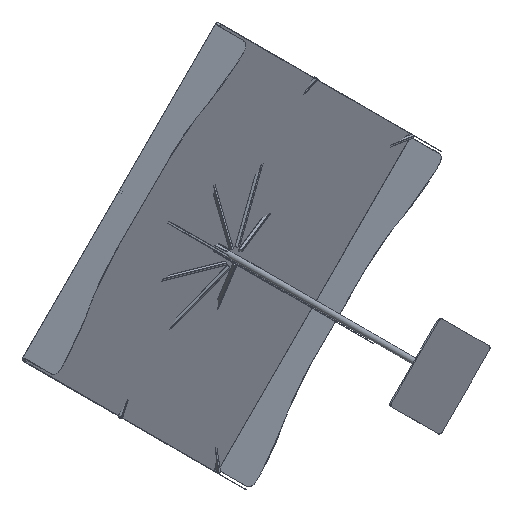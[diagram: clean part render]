
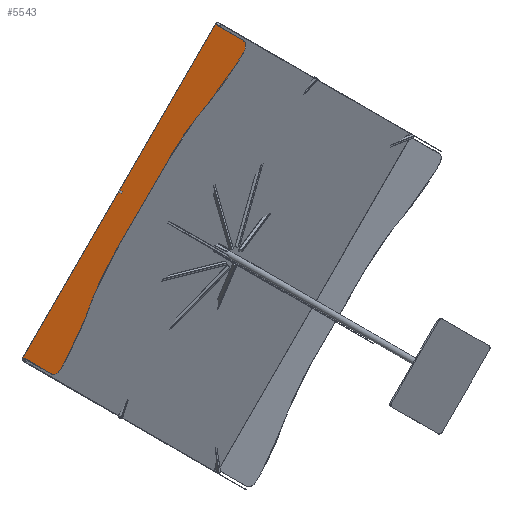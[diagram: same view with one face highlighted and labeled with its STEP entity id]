
A CAD part, isometric view. The second image highlights one B-rep face of the part: STEP entity #5543.
In plain terms, the highlighted planar face has unit normal (-0.707, 0, 0.707).
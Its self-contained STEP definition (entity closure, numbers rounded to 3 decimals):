
#551=FACE_OUTER_BOUND('',#860,.T.);
#860=EDGE_LOOP('',(#4586,#4587,#4588,#4589,#4590,#4591,#4592,#4593,#4594,
#4595,#4596,#4597,#4598,#4599,#4600,#4601,#4602,#4603,#4604,#4605,#4606,
#4607,#4608,#4609));
#1288=LINE('',#9471,#1740);
#1294=LINE('',#9734,#1746);
#1296=LINE('',#9738,#1748);
#1298=LINE('',#9742,#1750);
#1301=LINE('',#9750,#1753);
#1303=LINE('',#9754,#1755);
#1305=LINE('',#9758,#1757);
#1308=LINE('',#9766,#1760);
#1311=LINE('',#9774,#1763);
#1313=LINE('',#9778,#1765);
#1315=LINE('',#9782,#1767);
#1317=LINE('',#9786,#1769);
#1320=LINE('',#9794,#1772);
#1322=LINE('',#9798,#1774);
#1324=LINE('',#9804,#1776);
#1326=LINE('',#9807,#1778);
#1740=VECTOR('',#7307,10.);
#1746=VECTOR('',#7325,10.);
#1748=VECTOR('',#7329,10.);
#1750=VECTOR('',#7333,10.);
#1753=VECTOR('',#7342,10.);
#1755=VECTOR('',#7346,10.);
#1757=VECTOR('',#7350,10.);
#1760=VECTOR('',#7359,10.);
#1763=VECTOR('',#7368,10.);
#1765=VECTOR('',#7372,10.);
#1767=VECTOR('',#7376,10.);
#1769=VECTOR('',#7380,10.);
#1772=VECTOR('',#7389,10.);
#1774=VECTOR('',#7393,10.);
#1776=VECTOR('',#7401,10.);
#1778=VECTOR('',#7405,10.);
#1960=CIRCLE('',#6029,50.);
#1961=CIRCLE('',#6032,50.);
#1962=CIRCLE('',#6035,107.394);
#1963=CIRCLE('',#6040,2175.407);
#1964=CIRCLE('',#6045,2163.037);
#1965=CIRCLE('',#6048,2163.037);
#1966=CIRCLE('',#6054,2166.394);
#1967=CIRCLE('',#6058,108.029);
#2403=VERTEX_POINT('',#9461);
#2404=VERTEX_POINT('',#9463);
#2406=VERTEX_POINT('',#9469);
#2428=VERTEX_POINT('',#9707);
#2429=VERTEX_POINT('',#9708);
#2432=VERTEX_POINT('',#9729);
#2433=VERTEX_POINT('',#9733);
#2434=VERTEX_POINT('',#9737);
#2435=VERTEX_POINT('',#9741);
#2436=VERTEX_POINT('',#9745);
#2437=VERTEX_POINT('',#9749);
#2438=VERTEX_POINT('',#9753);
#2439=VERTEX_POINT('',#9757);
#2440=VERTEX_POINT('',#9761);
#2441=VERTEX_POINT('',#9765);
#2442=VERTEX_POINT('',#9769);
#2443=VERTEX_POINT('',#9773);
#2444=VERTEX_POINT('',#9777);
#2445=VERTEX_POINT('',#9781);
#2446=VERTEX_POINT('',#9785);
#2447=VERTEX_POINT('',#9789);
#2448=VERTEX_POINT('',#9793);
#2449=VERTEX_POINT('',#9797);
#2450=VERTEX_POINT('',#9803);
#3108=EDGE_CURVE('',#2403,#2404,#1960,.T.);
#3112=EDGE_CURVE('',#2406,#2403,#1288,.T.);
#3135=EDGE_CURVE('',#2428,#2429,#1961,.T.);
#3141=EDGE_CURVE('',#2432,#2404,#1962,.T.);
#3143=EDGE_CURVE('',#2433,#2432,#1294,.T.);
#3145=EDGE_CURVE('',#2434,#2433,#1296,.T.);
#3147=EDGE_CURVE('',#2435,#2434,#1298,.T.);
#3149=EDGE_CURVE('',#2436,#2435,#1963,.T.);
#3151=EDGE_CURVE('',#2437,#2436,#1301,.T.);
#3153=EDGE_CURVE('',#2438,#2437,#1303,.T.);
#3155=EDGE_CURVE('',#2439,#2438,#1305,.T.);
#3157=EDGE_CURVE('',#2440,#2439,#1964,.T.);
#3159=EDGE_CURVE('',#2441,#2440,#1308,.T.);
#3161=EDGE_CURVE('',#2442,#2441,#1965,.T.);
#3163=EDGE_CURVE('',#2443,#2442,#1311,.T.);
#3165=EDGE_CURVE('',#2444,#2443,#1313,.T.);
#3167=EDGE_CURVE('',#2445,#2444,#1315,.T.);
#3169=EDGE_CURVE('',#2446,#2445,#1317,.T.);
#3171=EDGE_CURVE('',#2447,#2446,#1966,.T.);
#3173=EDGE_CURVE('',#2448,#2447,#1320,.T.);
#3175=EDGE_CURVE('',#2449,#2448,#1322,.T.);
#3177=EDGE_CURVE('',#2428,#2449,#1967,.T.);
#3178=EDGE_CURVE('',#2450,#2429,#1324,.T.);
#3180=EDGE_CURVE('',#2450,#2406,#1326,.T.);
#4586=ORIENTED_EDGE('',*,*,#3108,.F.);
#4587=ORIENTED_EDGE('',*,*,#3112,.F.);
#4588=ORIENTED_EDGE('',*,*,#3180,.F.);
#4589=ORIENTED_EDGE('',*,*,#3178,.T.);
#4590=ORIENTED_EDGE('',*,*,#3135,.F.);
#4591=ORIENTED_EDGE('',*,*,#3177,.T.);
#4592=ORIENTED_EDGE('',*,*,#3175,.T.);
#4593=ORIENTED_EDGE('',*,*,#3173,.T.);
#4594=ORIENTED_EDGE('',*,*,#3171,.T.);
#4595=ORIENTED_EDGE('',*,*,#3169,.T.);
#4596=ORIENTED_EDGE('',*,*,#3167,.T.);
#4597=ORIENTED_EDGE('',*,*,#3165,.T.);
#4598=ORIENTED_EDGE('',*,*,#3163,.T.);
#4599=ORIENTED_EDGE('',*,*,#3161,.T.);
#4600=ORIENTED_EDGE('',*,*,#3159,.T.);
#4601=ORIENTED_EDGE('',*,*,#3157,.T.);
#4602=ORIENTED_EDGE('',*,*,#3155,.T.);
#4603=ORIENTED_EDGE('',*,*,#3153,.T.);
#4604=ORIENTED_EDGE('',*,*,#3151,.T.);
#4605=ORIENTED_EDGE('',*,*,#3149,.T.);
#4606=ORIENTED_EDGE('',*,*,#3147,.T.);
#4607=ORIENTED_EDGE('',*,*,#3145,.T.);
#4608=ORIENTED_EDGE('',*,*,#3143,.T.);
#4609=ORIENTED_EDGE('',*,*,#3141,.T.);
#4920=PLANE('',#6060);
#5543=ADVANCED_FACE('',(#551),#4920,.T.);
#6029=AXIS2_PLACEMENT_3D('',#9464,#7300,#7301);
#6032=AXIS2_PLACEMENT_3D('',#9709,#7311,#7312);
#6035=AXIS2_PLACEMENT_3D('',#9730,#7320,#7321);
#6040=AXIS2_PLACEMENT_3D('',#9746,#7337,#7338);
#6045=AXIS2_PLACEMENT_3D('',#9762,#7354,#7355);
#6048=AXIS2_PLACEMENT_3D('',#9770,#7363,#7364);
#6054=AXIS2_PLACEMENT_3D('',#9790,#7384,#7385);
#6058=AXIS2_PLACEMENT_3D('',#9801,#7397,#7398);
#6060=AXIS2_PLACEMENT_3D('',#9806,#7403,#7404);
#7300=DIRECTION('center_axis',(0.707,0.,
-0.707));
#7301=DIRECTION('ref_axis',(0.594,-0.544,0.594));
#7307=DIRECTION('',(0.,-1.,0.));
#7311=DIRECTION('center_axis',(0.707,0.,
-0.707));
#7312=DIRECTION('ref_axis',(-0.563,-0.605,-0.563));
#7320=DIRECTION('center_axis',(-0.707,0.,
0.707));
#7321=DIRECTION('ref_axis',(-0.012,1.,-0.012));
#7325=DIRECTION('',(0.707,-0.001,0.707));
#7329=DIRECTION('',(0.707,-0.014,0.707));
#7333=DIRECTION('',(0.707,-0.031,0.707));
#7337=DIRECTION('center_axis',(-0.707,0.,
0.707));
#7338=DIRECTION('ref_axis',(0.142,0.98,0.142));
#7342=DIRECTION('',(0.692,-0.206,0.692));
#7346=DIRECTION('',(0.694,-0.191,0.694));
#7350=DIRECTION('',(0.696,-0.173,0.696));
#7354=DIRECTION('center_axis',(0.707,0.,
-0.707));
#7355=DIRECTION('ref_axis',(0.116,0.986,0.116));
#7359=DIRECTION('',(0.707,0.,0.707));
#7363=DIRECTION('center_axis',(0.707,0.,
-0.707));
#7364=DIRECTION('ref_axis',(-0.002,1.,-0.002));
#7368=DIRECTION('',(0.696,0.173,0.696));
#7372=DIRECTION('',(0.694,0.191,0.694));
#7376=DIRECTION('',(0.692,0.207,0.692));
#7380=DIRECTION('',(0.694,0.195,0.694));
#7384=DIRECTION('center_axis',(-0.707,0.,
0.707));
#7385=DIRECTION('ref_axis',(-0.018,1.,-0.018));
#7389=DIRECTION('',(0.707,0.017,0.707));
#7393=DIRECTION('',(0.707,0.001,0.707));
#7397=DIRECTION('center_axis',(-0.707,0.,
0.707));
#7398=DIRECTION('ref_axis',(0.415,0.809,0.415));
#7401=DIRECTION('',(0.,-1.,0.));
#7403=DIRECTION('center_axis',(-0.707,0.,
0.707));
#7404=DIRECTION('ref_axis',(-0.707,0.,-0.707));
#7405=DIRECTION('',(0.707,0.,0.707));
#9461=CARTESIAN_POINT('',(-15.905,-682.569,1971.065));
#9463=CARTESIAN_POINT('',(-36.799,-728.196,1950.171));
#9464=CARTESIAN_POINT('Origin',(-51.26,-682.569,1935.71));
#9469=CARTESIAN_POINT('',(-15.905,-397.6,1971.065));
#9471=CARTESIAN_POINT('',(-15.905,-397.6,1971.065));
#9707=CARTESIAN_POINT('',(-1965.132,-717.005,21.838));
#9708=CARTESIAN_POINT('',(-1972.34,-686.748,14.63));
#9709=CARTESIAN_POINT('Origin',(-1936.985,-686.748,49.986));
#9729=CARTESIAN_POINT('',(-66.607,-737.575,1920.363));
#9730=CARTESIAN_POINT('Origin',(-67.86,-630.196,1919.11));
#9733=CARTESIAN_POINT('',(-78.416,-737.551,1908.554));
#9734=CARTESIAN_POINT('',(-47.334,-737.615,1939.636));
#9737=CARTESIAN_POINT('',(-98.775,-737.16,1888.195));
#9738=CARTESIAN_POINT('',(-58.977,-737.924,1927.993));
#9741=CARTESIAN_POINT('',(-125.631,-735.993,1861.339));
#9742=CARTESIAN_POINT('',(-74.493,-738.216,1912.477));
#9745=CARTESIAN_POINT('',(-374.299,-693.242,1612.671));
#9746=CARTESIAN_POINT('Origin',(-64.95,1437.721,1922.02));
#9749=CARTESIAN_POINT('',(-413.415,-681.578,1573.556));
#9750=CARTESIAN_POINT('',(-243.389,-732.278,1743.581));
#9753=CARTESIAN_POINT('',(-443.677,-673.256,1543.293));
#9754=CARTESIAN_POINT('',(-255.846,-724.911,1731.125));
#9757=CARTESIAN_POINT('',(-469.011,-666.977,1517.959));
#9758=CARTESIAN_POINT('',(-265.404,-717.443,1721.566));
#9761=CARTESIAN_POINT('',(-715.16,-637.612,1271.81));
#9762=CARTESIAN_POINT('Origin',(-720.229,-2800.638,1266.741));
#9765=CARTESIAN_POINT('',(-1272.474,-637.612,714.496));
#9766=CARTESIAN_POINT('',(-644.189,-637.612,1342.781));
#9769=CARTESIAN_POINT('',(-1518.623,-666.977,468.347));
#9770=CARTESIAN_POINT('Origin',(-1267.405,-2800.638,719.565));
#9773=CARTESIAN_POINT('',(-1543.957,-673.256,443.013));
#9774=CARTESIAN_POINT('',(-786.129,-485.419,1200.842));
#9777=CARTESIAN_POINT('',(-1574.219,-681.578,412.751));
#9778=CARTESIAN_POINT('',(-804.639,-469.938,1182.331));
#9781=CARTESIAN_POINT('',(-1604.568,-690.659,382.402));
#9782=CARTESIAN_POINT('',(-823.288,-456.889,1163.682));
#9785=CARTESIAN_POINT('',(-1633.916,-698.913,353.054));
#9786=CARTESIAN_POINT('',(-835.309,-474.309,1151.661));
#9789=CARTESIAN_POINT('',(-1882.931,-736.91,104.04));
#9790=CARTESIAN_POINT('Origin',(-1922.205,1428.772,64.765));
#9793=CARTESIAN_POINT('',(-1909.791,-737.551,77.179));
#9794=CARTESIAN_POINT('',(-961.09,-714.912,1025.88));
#9797=CARTESIAN_POINT('',(-1921.637,-737.575,65.333));
#9798=CARTESIAN_POINT('',(-968.6,-735.637,1018.37));
#9801=CARTESIAN_POINT('Origin',(-1920.275,-629.563,66.695));
#9803=CARTESIAN_POINT('',(-1972.34,-397.6,14.63));
#9804=CARTESIAN_POINT('',(-1972.34,-397.6,14.63));
#9806=CARTESIAN_POINT('Origin',(-15.905,-397.6,1971.065));
#9807=CARTESIAN_POINT('',(-1986.97,-397.6,0.));
